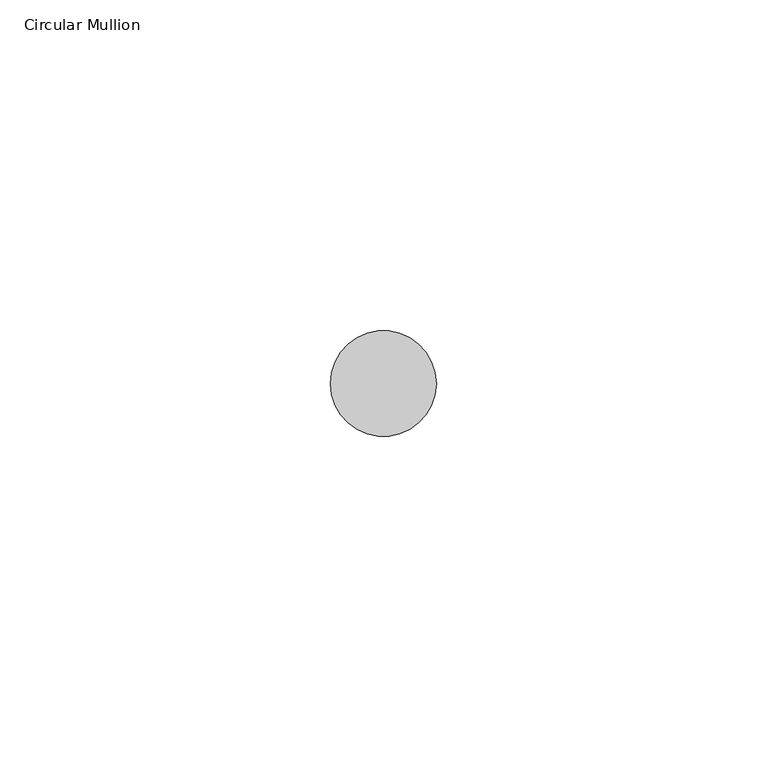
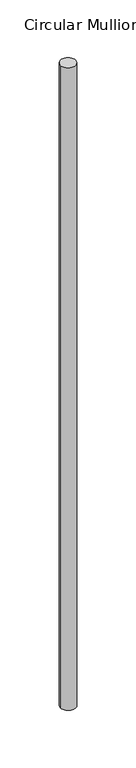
"""IFC4 building model written with IfcOpenShell, lengths in millimetres: member geometry, Circular Mullion : ARQ_HERR_16mm."""

from ifc_helpers import new_model, si_unit, point, frame, origin, origin_2d, place, context, project, spatial, circle_curve, trimmed, segment, composite_curve, outline, extrude, source, transform, mapped, element, save


def circular_mullion_800c9cf9(model_context):
    return source(origin(), model_context, "Body", "SweptSolid", [
        extrude(outline(composite_curve([segment(trimmed(circle_curve(origin_2d(), 8.0), [point((8.0, 0.0))], [point((-8.0, 0.0))], False, "CARTESIAN"), True, "CONTINUOUS"), segment(trimmed(circle_curve(origin_2d(), 8.0), [point((-8.0, 0.0))], [point((8.0, 0.0))], False, "CARTESIAN"), True, "CONTINUOUS")], self_intersect=False)), frame((0.0, 0.0, -702.7548374), z_axis=(0.0, 0.0, 1.0), x_axis=(1.0, 0.0, 0.0)), (0.0, 0.0, 1.0), 702.7548374),
    ])


if __name__ == "__main__":
    model = new_model("IFC4")
    model_context = context("Model", 3, world=origin())
    ifc_project = project(units=[si_unit("LENGTHUNIT", "METRE", prefix="MILLI")], contexts=[model_context])
    site = spatial("IfcSite", under=ifc_project)
    building = spatial("IfcBuilding", under=site)
    placement = place(None, origin())
    circular_mullion_shape = circular_mullion_800c9cf9(model_context)
    element("IfcMember", 1, ObjectType="Circular Mullion : ARQ_HERR_16mm", at=placement, inside=building, context=model_context, shape_type="MappedRepresentation", body=[
        mapped(circular_mullion_shape, transform((0.0, 0.0, 0.0), x_axis=(1.0, 0.0, 0.0), y_axis=(0.0, 1.0, 0.0), z_axis=(0.0, 0.0, 1.0))),
    ])
    save(model, "model.ifc")
